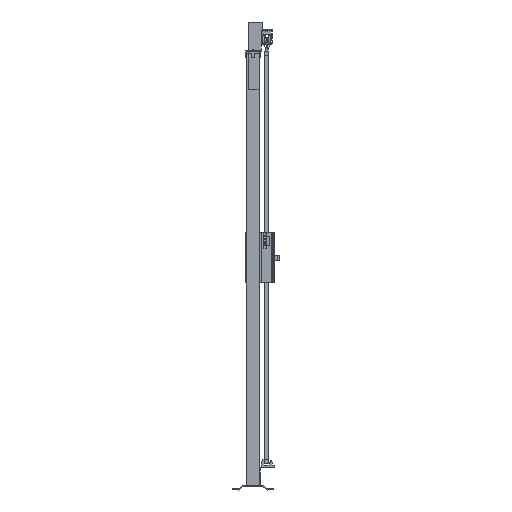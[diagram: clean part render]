
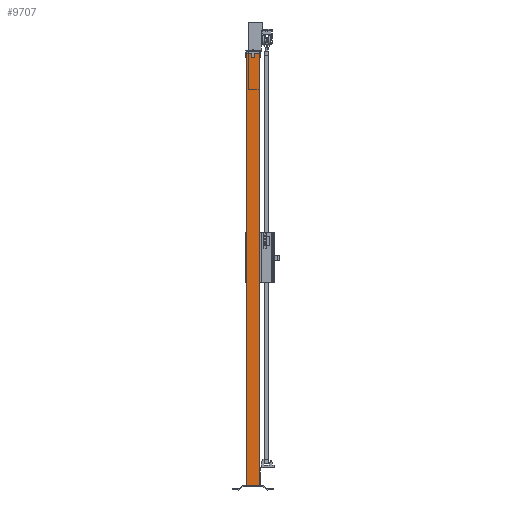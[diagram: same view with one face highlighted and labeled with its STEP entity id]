
A CAD part, left-side view. The second image highlights one B-rep face of the part: STEP entity #9707.
In plain terms, the highlighted planar face has unit normal (-1, 0, 0).
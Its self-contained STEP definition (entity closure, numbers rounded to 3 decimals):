
#1066=FACE_OUTER_BOUND('',#1545,.T.);
#1545=EDGE_LOOP('',(#7401,#7402,#7403,#7404));
#2408=LINE('',#14687,#3721);
#2412=LINE('',#14696,#3725);
#2414=LINE('',#14699,#3727);
#2416=LINE('',#14702,#3729);
#3721=VECTOR('',#11586,1.);
#3725=VECTOR('',#11592,1.);
#3727=VECTOR('',#11596,1.);
#3729=VECTOR('',#11600,1.);
#4747=VERTEX_POINT('',#14684);
#4748=VERTEX_POINT('',#14686);
#4751=VERTEX_POINT('',#14693);
#4752=VERTEX_POINT('',#14695);
#5757=EDGE_CURVE('',#4747,#4748,#2408,.T.);
#5761=EDGE_CURVE('',#4751,#4752,#2412,.T.);
#5763=EDGE_CURVE('',#4748,#4751,#2414,.T.);
#5765=EDGE_CURVE('',#4747,#4752,#2416,.T.);
#7401=ORIENTED_EDGE('',*,*,#5765,.T.);
#7402=ORIENTED_EDGE('',*,*,#5761,.F.);
#7403=ORIENTED_EDGE('',*,*,#5763,.F.);
#7404=ORIENTED_EDGE('',*,*,#5757,.F.);
#9269=PLANE('',#10250);
#9707=ADVANCED_FACE('',(#1066),#9269,.F.);
#10250=AXIS2_PLACEMENT_3D('',#14701,#11598,#11599);
#11586=DIRECTION('',(0.,-1.,0.));
#11592=DIRECTION('',(0.,1.,0.));
#11596=DIRECTION('',(0.,0.,-1.));
#11598=DIRECTION('center_axis',(1.,0.,0.));
#11599=DIRECTION('ref_axis',(0.,0.,-1.));
#11600=DIRECTION('',(0.,0.,-1.));
#14684=CARTESIAN_POINT('',(-30.,30.,2020.));
#14686=CARTESIAN_POINT('',(-30.,-30.,2020.));
#14687=CARTESIAN_POINT('',(-30.,0.,2020.));
#14693=CARTESIAN_POINT('',(-30.,-30.,20.));
#14695=CARTESIAN_POINT('',(-30.,30.,20.));
#14696=CARTESIAN_POINT('',(-30.,0.,20.));
#14699=CARTESIAN_POINT('',(-30.,-30.,1020.));
#14701=CARTESIAN_POINT('Origin',(-30.,0.,
1020.));
#14702=CARTESIAN_POINT('',(-30.,30.,1020.));
